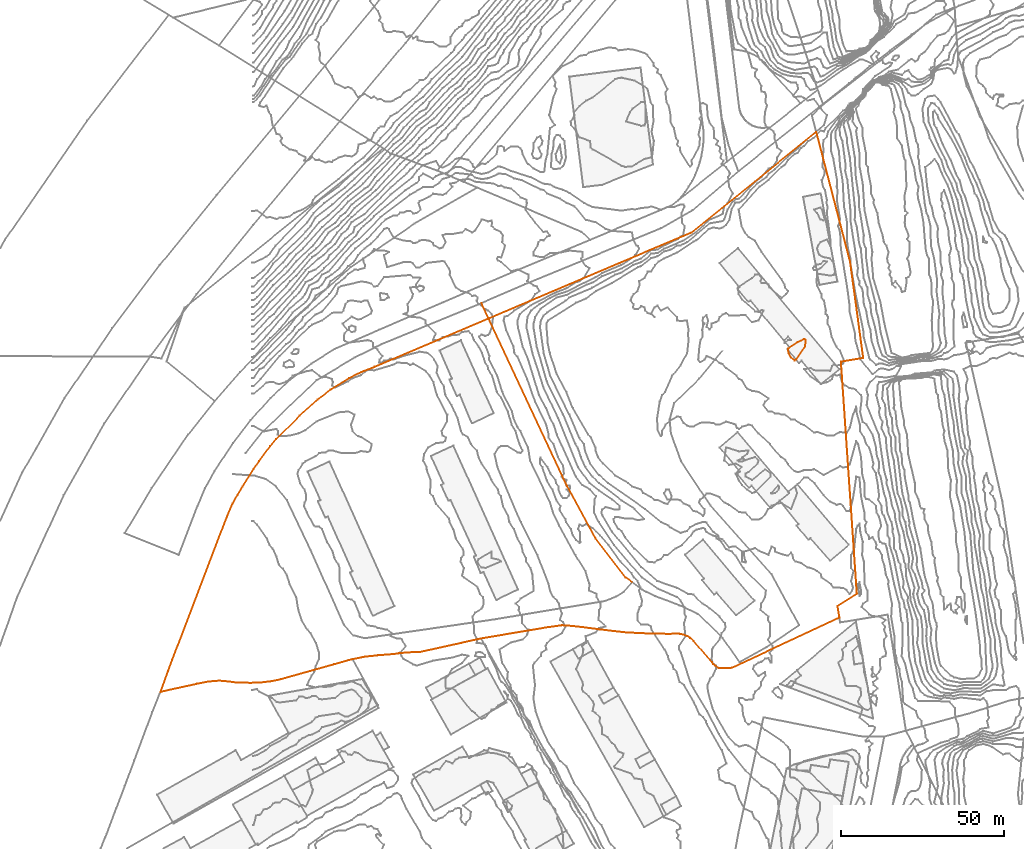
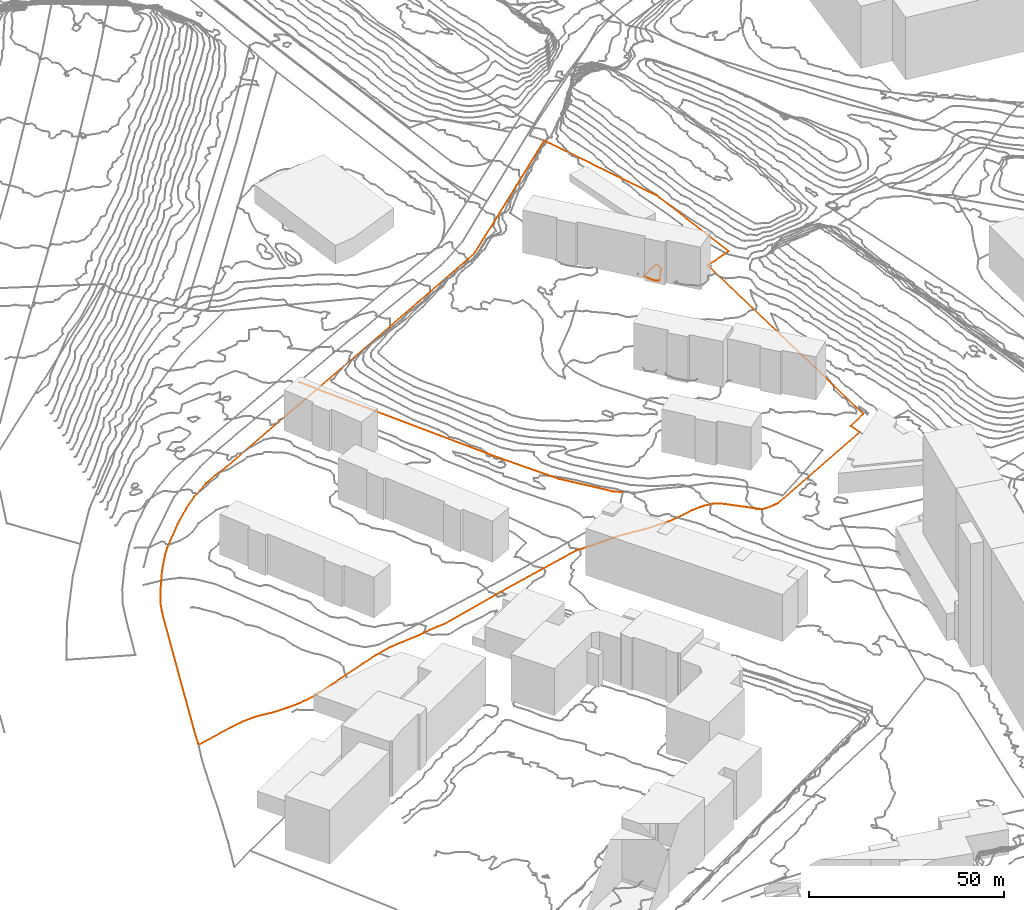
# Not in any storey, part 151 of 419: 3 proxies.
"""IFC2X3 model written with IfcOpenShell, lengths in metres."""

from ifc_helpers import new_model, entity, si_unit, frame, origin_with_axes, place, context, subcontext, project, element, save


model = new_model("IFC2X3")

# Units and contexts
model_context = context("Model", 3, precision=1e-05, world=origin_with_axes())
body_context = subcontext(model_context, "Body", "Model", "MODEL_VIEW")
ifc_project = project(units=[si_unit("AREAUNIT", "SQUARE_METRE"), si_unit("LENGTHUNIT", "METRE")], contexts=[model_context])

# Proxies
proxy_1_placement = place(None, frame((69.9920204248, 653.1976909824, 14.3), z_axis=(0.0, 0.0, 1.0), x_axis=(1.0, 0.0, 0.0)))
element("IfcBuildingElementProxy", 1, at=proxy_1_placement, Name="Route 110", ObjectType="NOTDEFINED", context=body_context, shape_type="GeometricCurveSet", body=[
    entity("IfcGeometricCurveSet", [entity("IfcPolyline", [entity("IfcCartesianPoint", [46.2999999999, -85.7000000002, 1.4]), entity("IfcCartesianPoint", [44.2999999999, -84.2000000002, 1.4]), entity("IfcCartesianPoint", [35.1, -72.2999999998, 1.3]), entity("IfcCartesianPoint", [26.2999999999, -56.0999999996, 1.3]), entity("IfcCartesianPoint", [0.0, 0.0, 0.0])])]),
])
proxy_2_placement = place(None, frame((-28.5479795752, 533.8476909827, 7.9104999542), z_axis=(0.0, 0.0, 1.0), x_axis=(1.0, 0.0, 0.0)))
element("IfcBuildingElementProxy", 2, at=proxy_2_placement, Name="Cadastre 387", ObjectType="NOTDEFINED", context=body_context, shape_type="GeometricCurveSet", body=[
    entity("IfcGeometricCurveSet", [entity("IfcPolyline", [entity("IfcCartesianPoint", [201.35, 171.9299999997, 13.9512066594]), entity("IfcCartesianPoint", [211.74, 132.1299999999, 17.2334202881]), entity("IfcCartesianPoint", [215.78, 102.5099999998, 16.4482677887]), entity("IfcCartesianPoint", [208.9300000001, 101.3899999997, 15.080771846]), entity("IfcCartesianPoint", [213.8100000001, 30.1600000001, 10.1913908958]), entity("IfcCartesianPoint", [207.87, 26.3899999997, 10.8225323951]), entity("IfcCartesianPoint", [208.4600000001, 22.8499999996, 10.7937403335]), entity("IfcCartesianPoint", [175.49, 7.4000000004, 9.5655503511]), entity("IfcCartesianPoint", [174.85, 7.3399999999, 9.5141272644]), entity("IfcCartesianPoint", [174.2100000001, 7.2999999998, 9.4652749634]), entity("IfcCartesianPoint", [171.8400000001, 7.2800000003, 9.3192006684]), entity("IfcCartesianPoint", [171.53, 7.3200000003, 9.2856004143]), entity("IfcCartesianPoint", [171.0900000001, 7.4799999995, 9.2456551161]), entity("IfcCartesianPoint", [170.28, 8.0599999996, 9.1341403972]), entity("IfcCartesianPoint", [169.75, 8.5700000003, 9.0466004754]), entity("IfcCartesianPoint", [169.3300000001, 9.1500000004, 9.0738004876]), entity("IfcCartesianPoint", [163.7200000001, 15.6200000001, 8.4994463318]), entity("IfcCartesianPoint", [162.6800000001, 16.5599999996, 8.3349617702]), entity("IfcCartesianPoint", [161.8400000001, 17.0599999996, 8.2528198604]), entity("IfcCartesianPoint", [160.4300000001, 17.5800000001, 8.0432127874]), entity("IfcCartesianPoint", [159.6, 17.7999999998, 7.9587999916]), entity("IfcCartesianPoint", [158.4600000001, 17.8799999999, 7.9205559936]), entity("IfcCartesianPoint", [156.13, 17.79, 7.7766521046]), entity("IfcCartesianPoint", [149.51, 17.9199999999, 6.6349968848]), entity("IfcCartesianPoint", [142.89, 18.2400000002, 6.3911503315]), entity("IfcCartesianPoint", [142.3300000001, 18.29, 6.4014119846]), entity("IfcCartesianPoint", [134.78, 19.1799999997, 6.2731039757]), entity("IfcCartesianPoint", [130.91, 19.6899999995, 5.7205540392]), entity("IfcCartesianPoint", [127.05, 20.1500000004, 5.3192197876]), entity("IfcCartesianPoint", [125.1900000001, 20.3200000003, 5.1962552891]), entity("IfcCartesianPoint", [123.3400000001, 20.4399999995, 5.0498997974]), entity("IfcCartesianPoint", [118.3200000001, 19.75, 4.6215404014]), entity("IfcCartesianPoint", [98.49, 16.4000000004, 3.1882253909]), entity("IfcCartesianPoint", [79.5700000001, 12.21, 2.4209622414]), entity("IfcCartesianPoint", [77.52, 12.1799999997, 2.3263060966]), entity("IfcCartesianPoint", [75.4700000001, 12.0700000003, 2.2239280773]), entity("IfcCartesianPoint", [73.35, 11.8399999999, 2.0839727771]), entity("IfcCartesianPoint", [71.2200000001, 11.5800000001, 2.0223003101]), entity("IfcCartesianPoint", [66.8100000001, 11.2299999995, 1.9391082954]), entity("IfcCartesianPoint", [62.4300000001, 10.7400000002, 1.9517450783]), entity("IfcCartesianPoint", [59.03, 10.0199999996, 1.7624147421]), entity("IfcCartesianPoint", [57.8400000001, 9.7699999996, 1.7334597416]), entity("IfcCartesianPoint", [53.3400000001, 8.4699999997, 1.490459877]), entity("IfcCartesianPoint", [37.12, 3.9100000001, 0.2966840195]), entity("IfcCartesianPoint", [34.1, 3.2699999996, 0.2524119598]), entity("IfcCartesianPoint", [31.04, 2.8899999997, 0.1952399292]), entity("IfcCartesianPoint", [27.89, 2.7599999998, 0.1332002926]), entity("IfcCartesianPoint", [23.51, 2.8200000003, 0.1314003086]), entity("IfcCartesianPoint", [20.78, 3.1799999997, 0.1206004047]), entity("IfcCartesianPoint", [18.02, 3.4299999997, 0.1131004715]), entity("IfcCartesianPoint", [14.5900000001, 3.1399999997, 0.121800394]), entity("IfcCartesianPoint", [11.2000000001, 2.4699999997, 0.1387002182]), entity("IfcCartesianPoint", [0.0, 0.0, 0.0]), entity("IfcCartesianPoint", [2.3300000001, 6.4399999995, 0.1694999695]), entity("IfcCartesianPoint", [3.5700000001, 9.7000000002, 0.2024997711]), entity("IfcCartesianPoint", [20.42, 53.8700000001, 1.1422999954]), entity("IfcCartesianPoint", [22.1800000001, 57.8700000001, 1.4483000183]), entity("IfcCartesianPoint", [23.64, 60.4799999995, 1.7139001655]), entity("IfcCartesianPoint", [25.17, 63.04, 1.5000998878]), entity("IfcCartesianPoint", [28.5700000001, 68.3799999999, 1.5437756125]), entity("IfcCartesianPoint", [30.27, 70.8700000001, 1.6610004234]), entity("IfcCartesianPoint", [33.7100000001, 75.5, 1.8220146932]), entity("IfcCartesianPoint", [35.48, 77.5499999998, 1.9797000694]), entity("IfcCartesianPoint", [42.8, 84.8700000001, 2.4820360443]), entity("IfcCartesianPoint", [48.24, 89.75, 2.6587000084]), entity("IfcCartesianPoint", [52.28, 92.7999999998, 2.8821503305]), entity("IfcCartesianPoint", [57.88, 96.29, 3.0516841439]), entity("IfcCartesianPoint", [61.77, 98.2400000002, 3.098754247]), entity("IfcCartesianPoint", [65.8300000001, 99.79, 3.2594399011]), entity("IfcCartesianPoint", [140.9400000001, 131.6899999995, 9.0688600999]), entity("IfcCartesianPoint", [163.05, 141.0300000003, 11.0801996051]), entity("IfcCartesianPoint", [201.35, 171.9299999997, 13.9512066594])])]),
])
proxy_3_placement = place(None, frame((164.0920204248, 639.2310243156, 23.0), z_axis=(0.0, 0.0, 1.0), x_axis=(1.0, 0.0, 0.0)))
element("IfcBuildingElementProxy", 3, at=proxy_3_placement, Name="Contour 23.0 m", ObjectType="NOTDEFINED", context=body_context, shape_type="GeometricCurveSet", body=[
    entity("IfcGeometricCurveSet", [entity("IfcPolyline", [entity("IfcCartesianPoint", [2.5000249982, -3.333333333, 0.0]), entity("IfcCartesianPoint", [2.0, -3.6190554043, 0.0]), entity("IfcCartesianPoint", [1.0, -2.8333416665, 0.0]), entity("IfcCartesianPoint", [0.2307726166, -1.333333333, 0.0]), entity("IfcCartesianPoint", [0.0, 0.0, 0.0]), entity("IfcCartesianPoint", [3.0, 2.0, 0.0]), entity("IfcCartesianPoint", [5.0, 2.916666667, 0.0]), entity("IfcCartesianPoint", [5.5000499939, 2.666666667, 0.0]), entity("IfcCartesianPoint", [5.25, 0.666666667, 0.0]), entity("IfcCartesianPoint", [2.5000249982, -3.333333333, 0.0])])]),
])

save(model, "model.ifc")
